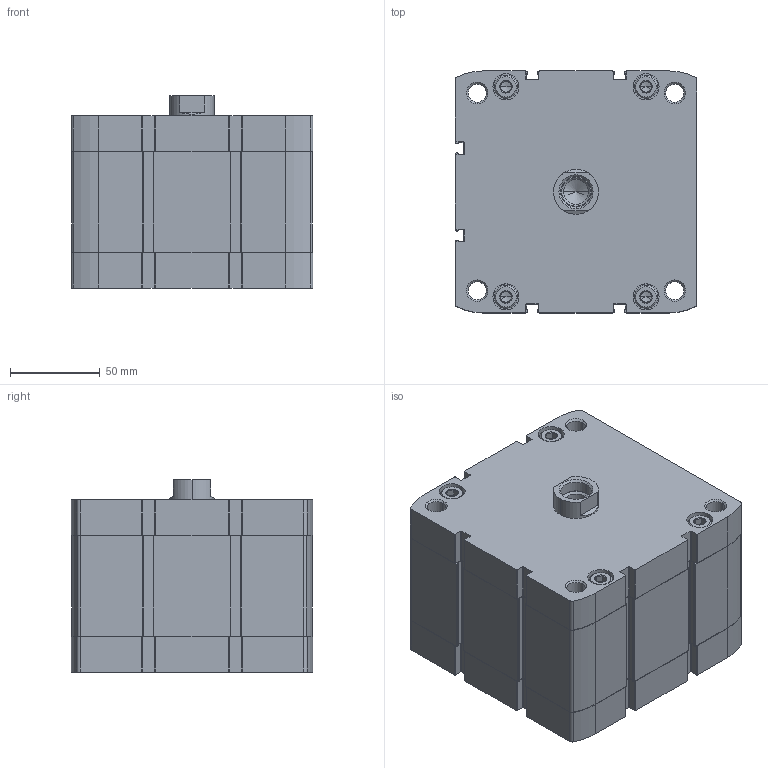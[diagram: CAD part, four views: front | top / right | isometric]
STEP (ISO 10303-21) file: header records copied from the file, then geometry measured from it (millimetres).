
FILE_DESCRIPTION (( 'STEP AP203' ), '1' );
FILE_NAME ('CCN125-15F.STEP', '2020-06-05T19:27:47', ( '' ), ( '' ), 'SwSTEP 2.0', 'SolidWorks 2019', '' );
FILE_SCHEMA (( 'CONFIG_CONTROL_DESIGN' ));
Length unit declared in the file: millimetre
Products named in the file (1): CCN125-15F
Bounding box: 134.6 x 134.6 x 107 mm (x, y, z)
Volume: 1483153.3 mm3; surface area: 199140.7 mm2
Topology: 2 solids, 2 shells, 535 faces, 1370 edges, 861 vertices
Faces by surface type: plane 267, cylinder 194, cone 74
Entity records: 17215 total; most frequent: CARTESIAN_POINT 3931, DIRECTION 2876, ORIENTED_EDGE 2704, EDGE_CURVE 1352, AXIS2_PLACEMENT_3D 1054, VERTEX_POINT 861, VECTOR 768, LINE 768
